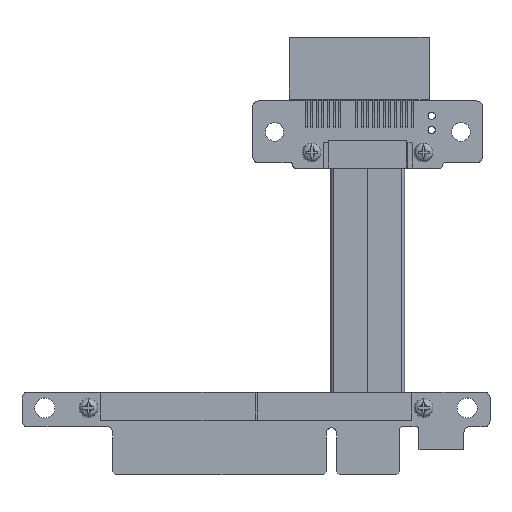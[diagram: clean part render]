
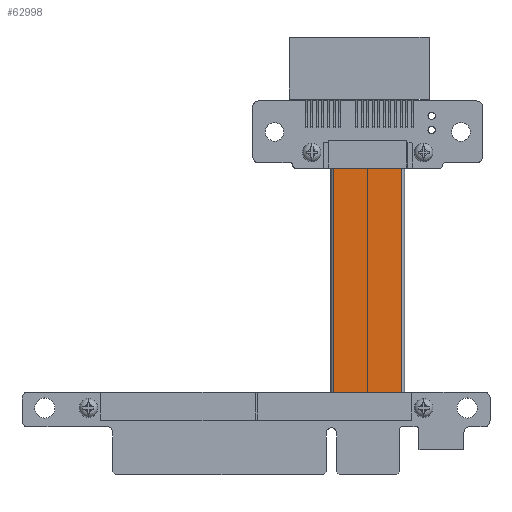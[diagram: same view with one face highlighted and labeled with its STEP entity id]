
A CAD part, top view. The second image highlights one B-rep face of the part: STEP entity #62998.
In plain terms, the highlighted planar face has unit normal (0, 0, 1) as drawn and (0, -1, 0) by its records, which use the part's own axes.
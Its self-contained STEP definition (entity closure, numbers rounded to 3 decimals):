
#62961 = VERTEX_POINT('',#62962);
#62962 = CARTESIAN_POINT('',(12.065,-1.4,-43.));
#62980 = VERTEX_POINT('',#62981);
#62981 = CARTESIAN_POINT('',(12.065,-1.4,0.));
#62988 = EDGE_CURVE('',#62961,#62980,#62989,.T.);
#62989 = LINE('',#62990,#62991);
#62990 = CARTESIAN_POINT('',(12.065,-1.4,-43.));
#62991 = VECTOR('',#62992,1.);
#62992 = DIRECTION('',(0.,0.,1.));
#62998 = ADVANCED_FACE('',(#62999),#63024,.T.);
#62999 = FACE_BOUND('',#63000,.T.);
#63000 = EDGE_LOOP('',(#63001,#63009,#63017,#63023));
#63001 = ORIENTED_EDGE('',*,*,#63002,.F.);
#63002 = EDGE_CURVE('',#63003,#62980,#63005,.T.);
#63003 = VERTEX_POINT('',#63004);
#63004 = CARTESIAN_POINT('',(0.,-1.4,
    0.));
#63005 = LINE('',#63006,#63007);
#63006 = CARTESIAN_POINT('',(6.032,-1.4,0.));
#63007 = VECTOR('',#63008,1.);
#63008 = DIRECTION('',(1.,0.,0.));
#63009 = ORIENTED_EDGE('',*,*,#63010,.F.);
#63010 = EDGE_CURVE('',#63011,#63003,#63013,.T.);
#63011 = VERTEX_POINT('',#63012);
#63012 = CARTESIAN_POINT('',(0.,-1.4,-43.)
  );
#63013 = LINE('',#63014,#63015);
#63014 = CARTESIAN_POINT('',(0.,-1.4,-43.)
  );
#63015 = VECTOR('',#63016,1.);
#63016 = DIRECTION('',(0.,0.,1.));
#63017 = ORIENTED_EDGE('',*,*,#63018,.T.);
#63018 = EDGE_CURVE('',#63011,#62961,#63019,.T.);
#63019 = LINE('',#63020,#63021);
#63020 = CARTESIAN_POINT('',(12.065,-1.4,-43.));
#63021 = VECTOR('',#63022,1.);
#63022 = DIRECTION('',(1.,0.,0.));
#63023 = ORIENTED_EDGE('',*,*,#62988,.T.);
#63024 = PLANE('',#63025);
#63025 = AXIS2_PLACEMENT_3D('',#63026,#63027,#63028);
#63026 = CARTESIAN_POINT('',(6.032,-1.4,-43.));
#63027 = DIRECTION('',(0.,-1.,0.));
#63028 = DIRECTION('',(0.,0.,-1.));
